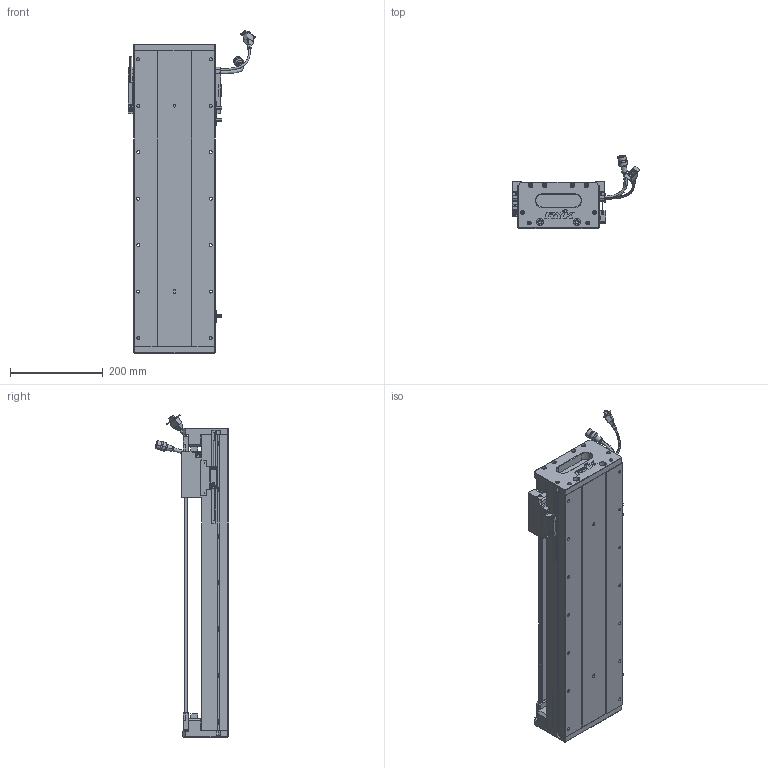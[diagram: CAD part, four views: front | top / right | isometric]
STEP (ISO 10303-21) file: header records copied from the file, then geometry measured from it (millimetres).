
FILE_DESCRIPTION (( 'STEP AP203' ), '1' );
FILE_NAME ('Z1-RY170D-1-L500-B-K.SLDASM_0450.step', '2021-05-17T08:51:32', ( '盈信电脑' ), ( '东莞市道滘镇水果街19号' ), 'SwSTEP 2.0', 'SolidWorks 2016', '' );
FILE_SCHEMA (( 'CONFIG_CONTROL_DESIGN' ));
Length unit declared in the file: millimetre
Products named in the file (36): SEAL; 榋妏寠巭燃_暯_M2_2; SCREW-M1.7; 覜茼ん672; LABEL; SCREW-M1.6; LABEL-Part-1; Z1-RY170-L500詩湍145mm遵_0450; 140雄赽晤鎢ん堤盄; SCREW-M1.7-1; SCREW-M1.6-2; HOLDER0; Z1-RY170臏賑輸(21遴); SEAL-Part-1; SCALE-Part-1; COVER; Z-RY170詩湍狟揤裔; SCREW-M1.6-3; Z1-RY170-L500耀郪菁釱_0450; Z-170詩湍傷裔啣; Z1-RY170D-1-L500-B-K.SLDASM_0450; 140蚥薯蝶輸; SCALE; RY170直线电机感应器672光电感应片; HARNESS-Part-1; HARNESS-Part-2; 170-Z-臏賑輸盄裔(21遴); PBU_SHEET; Z-RY170詩湍奻揤裔; SCREW-M1.6-1; SCALE-Part-2; PSLH080_PSLF2; HARNESS; COVER-Part-1; SHIELDPLATE; 080黍杅芛假蚾釱21遴
Assembly tree (41 placements, depth 4):
  Z1-RY170D-1-L500-B-K.SLDASM_0450
    Z1-RY170-L500耀郪菁釱_0450
    RY170直线电机感应器672光电感应片
    Z1-RY170臏賑輸(21遴)
    覜茼ん672  x3
    PSLH080_PSLF2
      SCALE
        SCALE-Part-1
        SCALE-Part-2
      HARNESS
        HARNESS-Part-1
        HARNESS-Part-2
      LABEL
        LABEL-Part-1
      COVER
        COVER-Part-1
      SEAL
        SEAL-Part-1
      榋妏寠巭燃_暯_M2_2
      SHIELDPLATE
      SCREW-M1.7
      SCREW-M1.7-1
      PBU_SHEET
      SCREW-M1.6
      SCREW-M1.6-1
      SCREW-M1.6-2
      SCREW-M1.6-3
      HOLDER0
    080黍杅芛假蚾釱21遴
    Z1-RY170-L500詩湍145mm遵_0450
    Z-170詩湍傷裔啣  x2
    Z-RY170詩湍奻揤裔  x2
    Z-RY170詩湍狟揤裔  x2
    140蚥薯蝶輸  x2
    170-Z-臏賑輸盄裔(21遴)
    140雄赽晤鎢ん堤盄
Bounding box: 275.34 x 158.11 x 693.73 mm (x, y, z)
Volume: 4096353.6 mm3; surface area: 1010650.1 mm2
Topology: 36 solids, 36 shells, 2708 faces, 7167 edges, 4525 vertices
Faces by surface type: cylinder 1174, plane 1108, cone 304, torus 69, bspline 53
Entity records: 77175 total; most frequent: CARTESIAN_POINT 19002, DIRECTION 11309, ORIENTED_EDGE 11298, EDGE_CURVE 5649, AXIS2_PLACEMENT_3D 4102, VERTEX_POINT 3643, LINE 3105, VECTOR 3105
